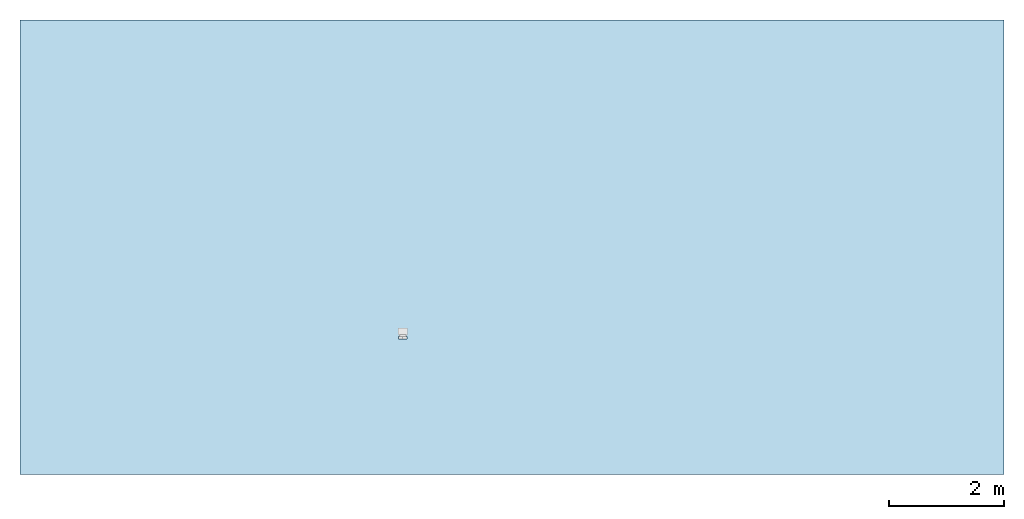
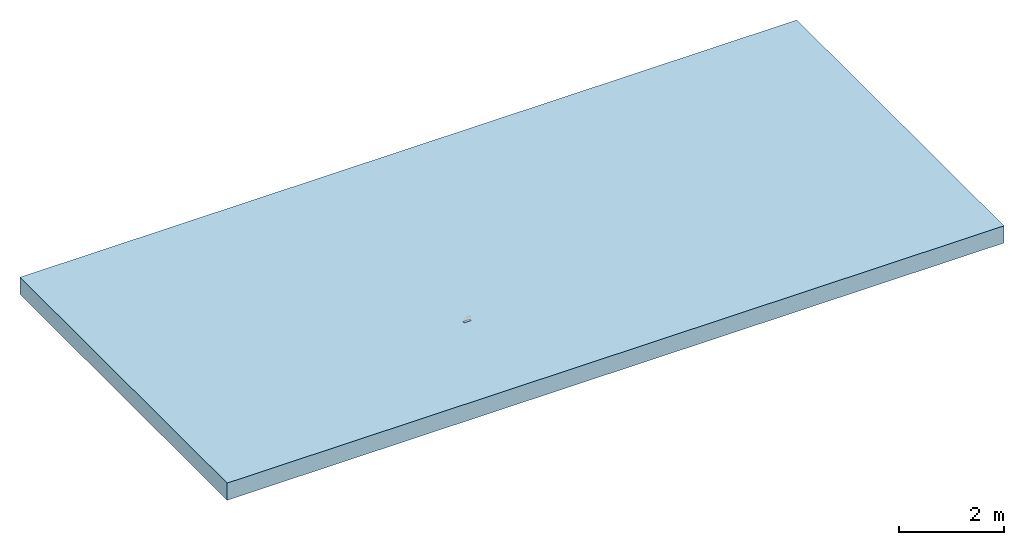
# One storey, part 1 of 2: 1 slab, 1 opening.
"""IFC2X3 building model written with IfcOpenShell, lengths in millimetres."""

from ifc_helpers import new_model, entity, si_unit, converted_unit, direction, frame, frame_2d, origin, place, context, subcontext, project, spatial, rectangle, extrude, faceted_brep, material, layer, layer_set, layer_usage, element, save


model = new_model("IFC2X3")

# Units and contexts
model_context = context("Model", 3, precision=1e-06, world=origin(), true_north=direction((2.0, 6.12303176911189e-17, 1.0)))
context_of_model = context(None, 3, precision=1e-06, world=origin(), true_north=direction((2.0, 6.12303176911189e-17, 1.0)))
body_context = subcontext(model_context, "Body", "Model", "MODEL_VIEW")
ifc_project = project(units=[si_unit("LENGTHUNIT", "METRE", prefix="MILLI"), si_unit("AREAUNIT", "SQUARE_METRE", prefix="MILLI"), si_unit("VOLUMEUNIT", "CUBIC_METRE", prefix="MILLI"), converted_unit("PLANEANGLEUNIT", "DEGREE", entity("IfcRatioMeasure", 0.0174532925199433), si_unit("PLANEANGLEUNIT", "RADIAN"), dimensions=[0, 0, 0, 0, 0, 0, 0]), si_unit("TIMEUNIT", "SECOND")], contexts=[model_context, context_of_model])

# Site, building, storey
site_placement = place(None, origin())
site = spatial("IfcSite", under=ifc_project, at=site_placement, Name="Default", CompositionType="ELEMENT")
building_placement = place(site_placement, origin())
building = spatial("IfcBuilding", under=site, at=building_placement, CompositionType="ELEMENT")
storey_placement = place(building_placement, origin())
storey = spatial("IfcBuildingStorey", under=building, at=storey_placement, Name="Level 1", CompositionType="ELEMENT", Elevation=0.0)

# Slab, opening
ifc_material = material(Name="Plant")
ifc_layer = layer(ifc_material, 400.0)
ifc_layer_set = layer_set([ifc_layer], Name="Floor:Generic Floor - 400mm")
ifc_layer_usage = layer_usage(ifc_layer_set, "AXIS3", "POSITIVE", 0.0)
slab_placement = place(storey_placement, origin())
slab = element("IfcSlab", 1, at=slab_placement, inside=storey, material=ifc_layer_usage, Name="Floor:Generic Floor - 400mm", ObjectType="Floor:Generic Floor - 400mm", PredefinedType="FLOOR", context=body_context, shape_type="SweptSolid", body=[
    extrude(rectangle(XDim=7900.0, YDim=17100.0, at=frame_2d((0.0, 0.0), x_axis=(0.0, -1.0))), frame((-8097.86261836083, 1059.07636553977, 0.0), z_axis=(0.0, 0.0, -1.0), x_axis=(-1.0, 0.0, 0.0)), (0.0, 0.0, 1.0), 400.0),
])
opening_placement = place(slab_placement, frame((-10075.069987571, -538.640450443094, -380.015697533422)))
element("IfcOpeningElement", 2, at=opening_placement, cuts=slab, ObjectType="Opening", context=body_context, shape_type="Brep", body=[
    faceted_brep([(5.19999999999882, 50.0, 380.015697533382), (155.199999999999, 50.0, 218.096175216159), (155.199999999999, 50.0, 380.015697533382), (5.19999999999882, 50.0, 218.096175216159), (5.19999999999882, 50.0, 0.0), (155.199999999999, 50.0, 0.0), (155.199999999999, 50.0, 21.0156975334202), (5.19999999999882, 50.0, 21.0156975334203), (0.0, 50.0, 21.0156975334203), (0.0, 50.0, 218.09617521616), (160.5, 50.0, 21.0156975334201), (160.5, 50.0, 218.09617521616), (155.199999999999, 0.0, 380.015697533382), (5.19999999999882, 0.0, 380.015697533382), (160.5, 80.0, 180.990697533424), (160.5, 197.0, 180.990697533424), (160.5, 197.0, 21.0156975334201), (155.199999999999, 0.0, 0.0), (5.19999999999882, 0.0, 0.0), (0.0, 80.0, 180.990697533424), (0.0, 197.0, 21.0156975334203), (0.0, 197.0, 180.990697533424)], [[[0, 1, 2]], [[1, 0, 3]], [[4, 5, 6]], [[6, 7, 4]], [[3, 8, 9]], [[8, 3, 7]], [[10, 6, 1]], [[1, 11, 10]], [[2, 12, 13]], [[13, 0, 2]], [[14, 15, 16]], [[10, 11, 14]], [[16, 10, 14]], [[17, 18, 13]], [[13, 12, 17]], [[4, 18, 17]], [[17, 5, 4]], [[1, 17, 12]], [[6, 17, 1]], [[2, 1, 12]], [[17, 6, 5]], [[3, 13, 18]], [[0, 13, 3]], [[7, 3, 18]], [[18, 4, 7]], [[19, 9, 8]], [[20, 21, 19]], [[8, 20, 19]], [[14, 19, 21]], [[21, 15, 14]], [[16, 21, 20]], [[21, 16, 15]], [[7, 20, 8]], [[6, 20, 7]], [[10, 16, 6]], [[20, 6, 16]], [[3, 9, 19]], [[1, 3, 19]], [[14, 11, 1]], [[19, 14, 1]]]),
])

save(model, "model.ifc")
